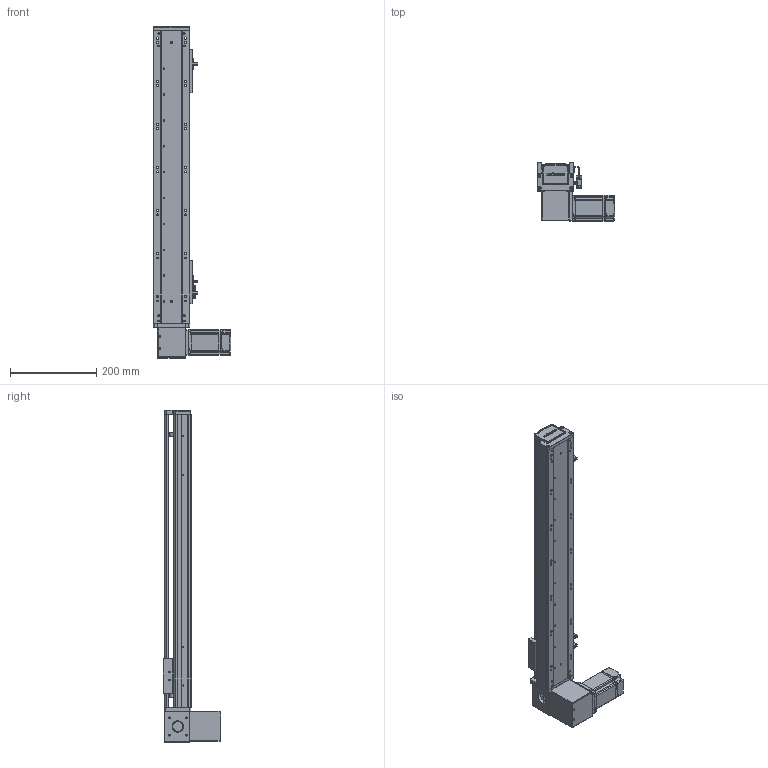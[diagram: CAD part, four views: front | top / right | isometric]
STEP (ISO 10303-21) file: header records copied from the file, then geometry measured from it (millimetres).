
FILE_DESCRIPTION (( 'STEP AP203' ), '1' );
FILE_NAME ('RY80-T-300-DR.SLDASM_500.step', '2021-03-01T01:49:24', ( '盈信电脑' ), ( '东莞市道滘镇水果街19号' ), 'SwSTEP 2.0', 'SolidWorks 2012', '' );
FILE_SCHEMA (( 'CONFIG_CONTROL_DESIGN' ));
Products named in the file (18): RY80-T-300-DR.SLDASM_500; 1; RY80-T-M4蹟翐3; RY80-T肮祭謫狟殏俋欶; RY80-T翋肮祭謫裔啣; RY80-T-上下折同步轮盖板; RY80-T萇儂假蚾啣; RY80-T肮祭湍揤輸2; 滅袉蝶18-10; RY80-T肮祭湍揤輸1; 672嫖萇羲壽假蚾釱; RY80-T-翋肮祭謫釱; RY80俋离覜茼え; 覜茼ん672; RY80-T肮祭謫臏賑輸; RY80-T綴裔啣; RY80-T-300-DR倰第奻裔啣_500; RY80-T-300-DR倰第菁釱_500
Assembly tree (21 placements, depth 2):
  RY80-T-300-DR.SLDASM_500
    RY80-T-300-DR倰第菁釱_500
    RY80-T肮祭謫臏賑輸
    RY80-T-300-DR倰第奻裔啣_500
    RY80-T綴裔啣
    672嫖萇羲壽假蚾釱  x2
    覜茼ん672  x3
    RY80俋离覜茼え
    RY80-T-翋肮祭謫釱
    RY80-T肮祭湍揤輸1
    RY80-T肮祭湍揤輸2
    滅袉蝶18-10  x2
    RY80-T翋肮祭謫裔啣
    RY80-T-上下折同步轮盖板
    RY80-T肮祭謫狟殏俋欶
    RY80-T萇儂假蚾啣
    1
    RY80-T-M4蹟翐3
Bounding box: 180 x 134.5 x 770 mm (x, y, z)
Volume: 1515305.8 mm3; surface area: 613542.5 mm2
Topology: 21 solids, 21 shells, 2405 faces, 6647 edges, 4316 vertices
Faces by surface type: plane 1309, cylinder 900, cone 140, bspline 56
Entity records: 76506 total; most frequent: CARTESIAN_POINT 18584, ORIENTED_EDGE 11938, DIRECTION 11182, EDGE_CURVE 5969, VERTEX_POINT 3920, AXIS2_PLACEMENT_3D 3738, LINE 3706, VECTOR 3706
